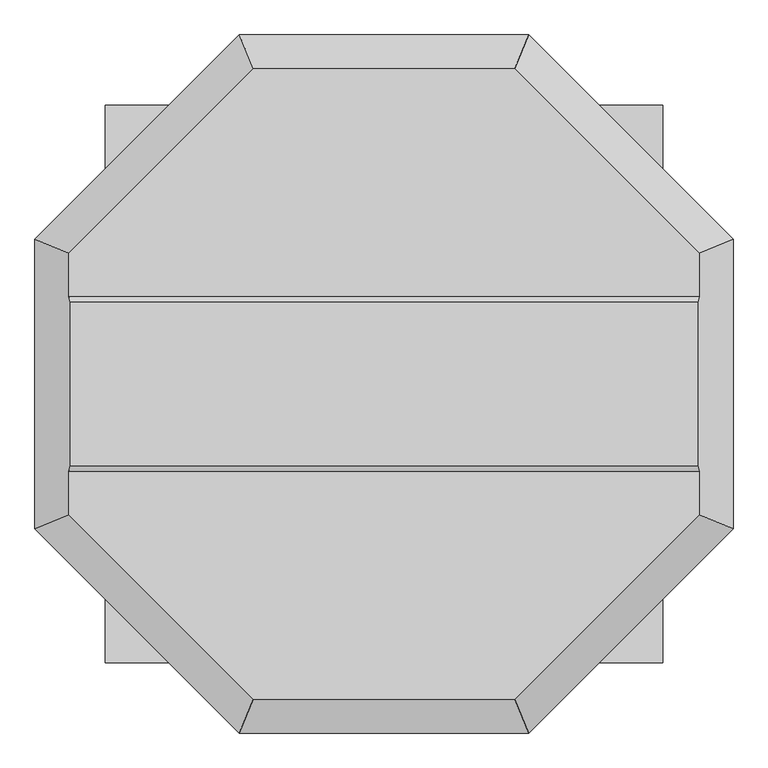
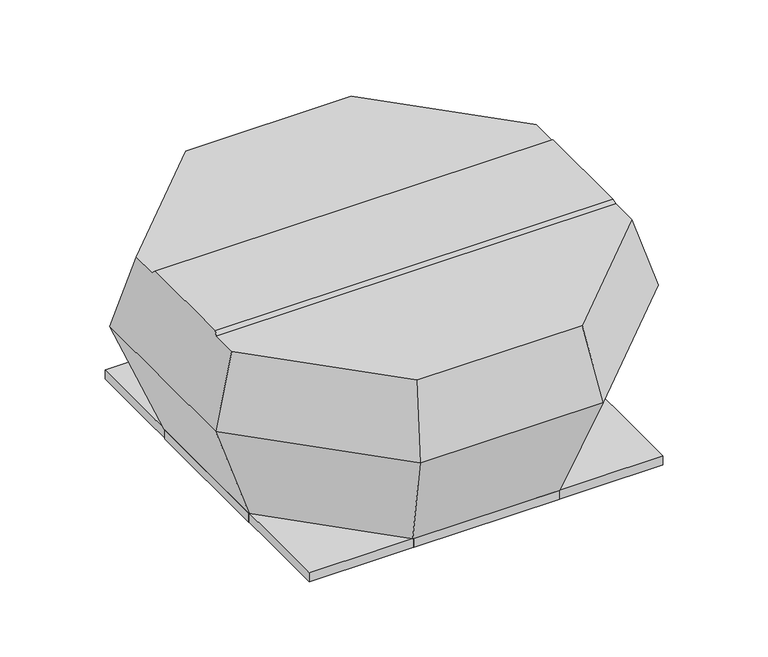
"""IFC4 building model written with IfcOpenShell, lengths in millimetres: unitary equipment geometry, VE-Wentylator-ParaForma-Harmann-VIVER_EC-Wywiewny : 4-560/12000TEC."""

from ifc_helpers import new_model, si_unit, origin, place, context, project, spatial, faceted_brep, source, transform, mapped, element, save


def unitary_equipment_d791638a(model_context):
    return source(origin(), model_context, "Body", "Brep", [
        faceted_brep([(523.500596, -136.8, 497.2), (523.500596, 136.8, 497.2), (-523.500596, 136.8, 497.2), (-523.500596, -136.8, 497.2), (526.1778459, 145.8, 488.3), (-526.1778459, 145.8, 488.3), (526.1778459, -145.8, 488.3), (-526.1778459, -145.8, 488.3), (217.95, -526.1778459, 488.3), (526.1778459, -217.95, 488.3), (-526.1778459, -217.95, 488.3), (-217.95, -526.1778459, 488.3), (526.1778459, 217.95, 488.3), (217.95, 526.1778459, 488.3), (-217.95, 526.1778459, 488.3), (-526.1778459, 217.95, 488.3), (241.4, -582.791154, 300.1), (582.791154, -241.4, 300.1), (582.791154, 241.4, 300.1), (241.4, 582.791154, 300.1), (-241.4, 582.791154, 300.1), (-582.791154, 241.4, 300.1), (-582.791154, -241.4, 300.1), (-241.4, -582.791154, 300.1), (193.3, -466.6674816, 1.5), (-193.3, -466.6674816, 1.5), (-466.6674816, -193.3, 1.5), (-466.6674816, 193.3, 1.5), (-193.3, 466.6674816, 1.5), (193.3, 466.6674816, 1.5), (466.6674816, 193.3, 1.5), (466.6674816, -193.3, 1.5)], [[[0, 1, 2, 3]], [[1, 4, 5, 2]], [[6, 0, 3, 7]], [[8, 9, 6, 7, 10, 11]], [[12, 13, 14, 15, 5, 4]], [[9, 8, 16, 17]], [[9, 17, 18, 12, 4, 1, 0, 6]], [[13, 12, 18, 19]], [[14, 13, 19, 20]], [[15, 14, 20, 21]], [[15, 21, 22, 10, 7, 3, 2, 5]], [[11, 10, 22, 23]], [[8, 11, 23, 16]], [[24, 25, 26, 27, 28, 29, 30, 31]], [[24, 31, 17, 16]], [[31, 30, 18, 17]], [[30, 29, 19, 18]], [[29, 28, 20, 19]], [[28, 27, 21, 20]], [[27, 26, 22, 21]], [[26, 25, 23, 22]], [[25, 24, 16, 23]]]),
        faceted_brep([(464.1, 464.1, -23.5), (464.1, 464.1, 0.0), (-464.1, 464.1, 0.0), (-464.1, 464.1, -23.5), (465.6, 465.6, 1.5), (465.6, 465.6, -23.5), (-465.6, 465.6, -23.5), (-465.6, 465.6, 1.5), (-464.1, -464.1, 0.0), (-464.1, -464.1, -23.5), (-465.6, -465.6, -23.5), (-465.6, -465.6, 1.5), (464.1, -464.1, 0.0), (464.1, -464.1, -23.5), (465.6, -465.6, -23.5), (465.6, -465.6, 1.5)], [[[0, 1, 2, 3]], [[4, 5, 6, 7]], [[3, 2, 8, 9]], [[7, 6, 10, 11]], [[9, 8, 12, 13]], [[11, 10, 14, 15]], [[13, 12, 1, 0]], [[5, 14, 10, 6], [3, 9, 13, 0]], [[15, 14, 5, 4]], [[7, 11, 15, 4]], [[1, 12, 8, 2]]]),
        faceted_brep([(-465.6, -191.6, -23.5), (-466.6, -191.6, -23.5), (-466.6, 191.6, -23.5), (-465.6, 191.6, -23.5), (-465.6, -191.6, 1.5), (-465.6, 191.6, 1.5), (-466.6, 191.6, 1.5), (-466.6, -191.6, 1.5)], [[[0, 1, 2, 3]], [[4, 5, 6, 7]], [[1, 0, 4, 7]], [[2, 1, 7, 6]], [[3, 2, 6, 5]], [[0, 3, 5, 4]]]),
        faceted_brep([(466.6, -191.6, -23.5), (465.6, -191.6, -23.5), (465.6, 191.6, -23.5), (466.6, 191.6, -23.5), (466.6, 191.6, 1.5), (465.6, 191.6, 1.5), (465.6, 5.0, 1.5), (465.6, -5.0, 1.5), (465.6, -191.6, 1.5), (466.6, -191.6, 1.5), (466.6, -5.0, 1.5), (466.6, 5.0, 1.5)], [[[0, 1, 2, 3]], [[4, 5, 6, 7, 8, 9, 10, 11]], [[1, 0, 9, 8]], [[2, 1, 8, 7, 6, 5]], [[3, 2, 5, 4]], [[0, 3, 4, 11, 10, 9]]]),
        faceted_brep([(191.6, 465.6, -23.5), (-191.6, 465.6, -23.5), (-191.6, 466.6, -23.5), (191.6, 466.6, -23.5), (191.6, 465.6, 1.5), (191.6, 466.6, 1.5), (-191.6, 466.6, 1.5), (-191.6, 465.6, 1.5)], [[[0, 1, 2, 3]], [[4, 5, 6, 7]], [[1, 0, 4, 7]], [[2, 1, 7, 6]], [[3, 2, 6, 5]], [[0, 3, 5, 4]]]),
        faceted_brep([(191.6, -466.6, -23.5), (-191.6, -466.6, -23.5), (-191.6, -465.6, -23.5), (191.6, -465.6, -23.5), (191.6, -466.6, 1.5), (191.6, -465.6, 1.5), (-191.6, -465.6, 1.5), (-191.6, -466.6, 1.5)], [[[0, 1, 2, 3]], [[4, 5, 6, 7]], [[1, 0, 4, 7]], [[2, 1, 7, 6]], [[3, 2, 6, 5]], [[0, 3, 5, 4]]]),
    ])


if __name__ == "__main__":
    model = new_model("IFC4")
    model_context = context("Model", 3, world=origin())
    ifc_project = project(units=[si_unit("LENGTHUNIT", "METRE", prefix="MILLI")], contexts=[model_context])
    site = spatial("IfcSite", under=ifc_project)
    building = spatial("IfcBuilding", under=site)
    placement = place(None, origin())
    unitary_equipment_shape = unitary_equipment_d791638a(model_context)
    element("IfcUnitaryEquipment", 1, ObjectType="VE-Wentylator-ParaForma-Harmann-VIVER_EC-Wywiewny : 4-560/12000TEC", at=placement, inside=building, context=model_context, shape_type="MappedRepresentation", body=[
        mapped(unitary_equipment_shape, transform((0.0, 0.0, 0.0), x_axis=(1.0, 0.0, 0.0), y_axis=(0.0, 1.0, 0.0), z_axis=(0.0, 0.0, 1.0))),
    ])
    save(model, "model.ifc")
